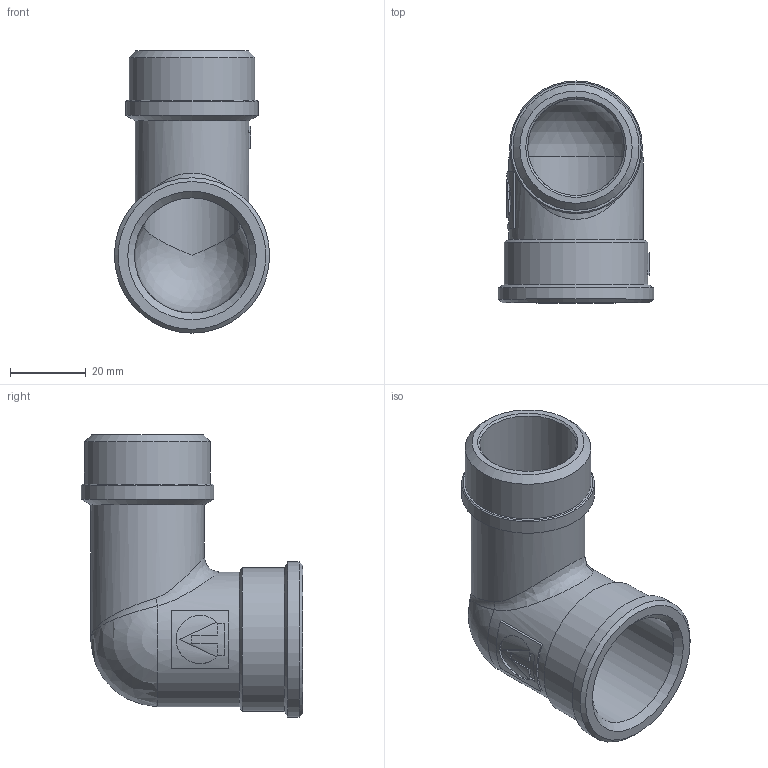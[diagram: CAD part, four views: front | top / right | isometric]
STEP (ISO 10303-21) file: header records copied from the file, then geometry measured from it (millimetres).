
FILE_DESCRIPTION(('STEP AP203'), '1');
FILE_NAME('ÂÐ.752218.004 - VTr.092.N.0006 - Ôèò. ðåçüá. óãîë', '2024-06-20T13:36:09', ('Boss'), (''), 'C3D Converter', 'C3D Toolkit', '');
FILE_SCHEMA(('CONFIG_CONTROL_DESIGN'));
Length unit declared in the file: millimetre
Products named in the file (1): ВР.752218.004
Bounding box: 41 x 58.5 x 74.5 mm (x, y, z)
Volume: 27277.3 mm3; surface area: 19062.4 mm2
Topology: 1 solids, 1 shells, 126 faces, 339 edges, 219 vertices
Faces by surface type: extrusion 54, plane 41, cylinder 18, cone 8, bspline 3, sphere 2
Full cylindrical faces by diameter (mm): 25.5 x1, 30 x1, 30.4 x1, 33.249 x1, 35 x1, 35.5 x1, 38 x1, 41 x1
Entity records: 7087 total; most frequent: CARTESIAN_POINT 4337, ORIENTED_EDGE 634, DIRECTION 383, EDGE_CURVE 317, VERTEX_POINT 219, B_SPLINE_CURVE_WITH_KNOTS 176, VECTOR 167, EDGE_LOOP 154
